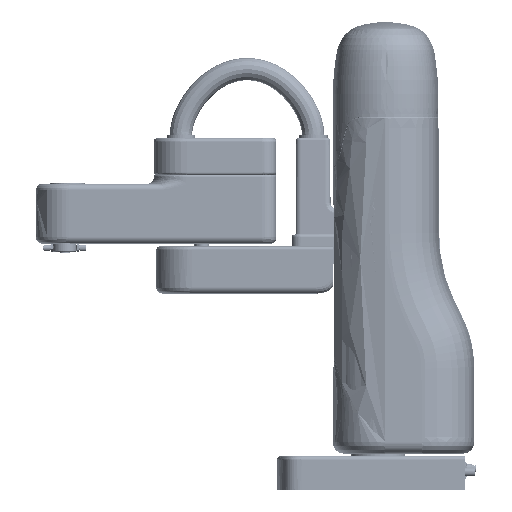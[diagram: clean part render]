
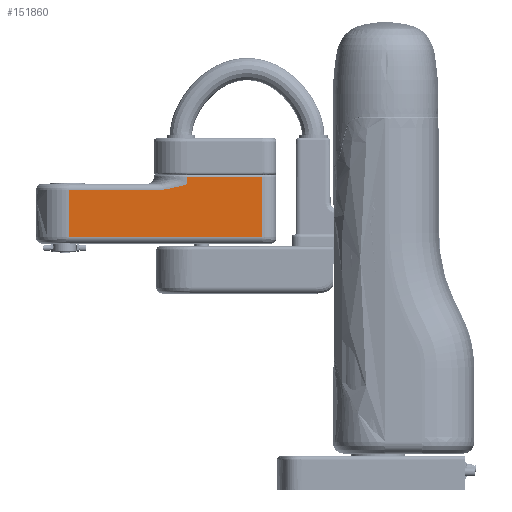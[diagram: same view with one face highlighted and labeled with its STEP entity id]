
A CAD part, front view. The second image highlights one B-rep face of the part: STEP entity #151860.
In plain terms, the highlighted planar face has unit normal (0, -1, 0) as drawn and (0, 0, -1) by its records, which use the part's own axes.
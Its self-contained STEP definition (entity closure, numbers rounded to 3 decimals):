
#3894=B_SPLINE_CURVE_WITH_KNOTS('',3,(#278750,#278751,#278752,#278753),
 .UNSPECIFIED.,.F.,.F.,(4,4),(0.,1.),.UNSPECIFIED.);
#9370=PLANE('',#167655);
#15845=FACE_OUTER_BOUND('',#24677,.T.);
#24677=EDGE_LOOP('',(#120302,#120303,#120304,#120305,#120306,#120307,#120308));
#33928=LINE('',#278748,#44123);
#33929=LINE('',#278755,#44124);
#33930=LINE('',#278757,#44125);
#33931=LINE('',#278759,#44126);
#33932=LINE('',#278761,#44127);
#33933=LINE('',#278762,#44128);
#44123=VECTOR('',#202248,10.);
#44124=VECTOR('',#202249,10.);
#44125=VECTOR('',#202250,10.);
#44126=VECTOR('',#202251,10.);
#44127=VECTOR('',#202252,10.);
#44128=VECTOR('',#202253,10.);
#64983=VERTEX_POINT('',#278746);
#64984=VERTEX_POINT('',#278747);
#64985=VERTEX_POINT('',#278749);
#64986=VERTEX_POINT('',#278754);
#64987=VERTEX_POINT('',#278756);
#64988=VERTEX_POINT('',#278758);
#64989=VERTEX_POINT('',#278760);
#84121=EDGE_CURVE('',#64983,#64984,#33928,.T.);
#84122=EDGE_CURVE('',#64985,#64983,#3894,.T.);
#84123=EDGE_CURVE('',#64986,#64985,#33929,.T.);
#84124=EDGE_CURVE('',#64987,#64986,#33930,.T.);
#84125=EDGE_CURVE('',#64987,#64988,#33931,.T.);
#84126=EDGE_CURVE('',#64988,#64989,#33932,.T.);
#84127=EDGE_CURVE('',#64984,#64989,#33933,.T.);
#120302=ORIENTED_EDGE('',*,*,#84121,.F.);
#120303=ORIENTED_EDGE('',*,*,#84122,.F.);
#120304=ORIENTED_EDGE('',*,*,#84123,.F.);
#120305=ORIENTED_EDGE('',*,*,#84124,.F.);
#120306=ORIENTED_EDGE('',*,*,#84125,.T.);
#120307=ORIENTED_EDGE('',*,*,#84126,.T.);
#120308=ORIENTED_EDGE('',*,*,#84127,.F.);
#151860=ADVANCED_FACE('',(#15845),#9370,.T.);
#167655=AXIS2_PLACEMENT_3D('',#278745,#202246,#202247);
#202246=DIRECTION('center_axis',(0.,0.,-1.));
#202247=DIRECTION('ref_axis',(-1.,0.,0.));
#202248=DIRECTION('',(0.,-1.,0.));
#202249=DIRECTION('',(1.,0.,0.));
#202250=DIRECTION('',(0.,-1.,0.));
#202251=DIRECTION('',(1.,0.,0.));
#202252=DIRECTION('',(0.,-1.,0.));
#202253=DIRECTION('',(1.,0.,0.));
#278745=CARTESIAN_POINT('Origin',(84.395,34.5,-42.));
#278746=CARTESIAN_POINT('',(111.2,-41.633,-42.));
#278747=CARTESIAN_POINT('',(111.2,-50.526,-42.));
#278748=CARTESIAN_POINT('',(111.2,-41.633,-42.));
#278749=CARTESIAN_POINT('',(74.67,-33.703,-42.));
#278750=CARTESIAN_POINT('Ctrl Pts',(74.67,-33.703,-42.));
#278751=CARTESIAN_POINT('Ctrl Pts',(82.204,-33.703,
-42.));
#278752=CARTESIAN_POINT('Ctrl Pts',(109.602,-39.651,
-42.));
#278753=CARTESIAN_POINT('Ctrl Pts',(111.2,-41.633,-42.));
#278754=CARTESIAN_POINT('',(-39.,-33.703,-42.));
#278755=CARTESIAN_POINT('',(-39.,-33.703,-42.));
#278756=CARTESIAN_POINT('',(-39.,26.203,-42.));
#278757=CARTESIAN_POINT('',(-39.,26.203,-42.));
#278758=CARTESIAN_POINT('',(207.79,26.203,-42.));
#278759=CARTESIAN_POINT('',(-39.,26.203,-42.));
#278760=CARTESIAN_POINT('',(207.79,-50.526,-42.));
#278761=CARTESIAN_POINT('',(207.79,26.203,-42.));
#278762=CARTESIAN_POINT('',(111.2,-50.526,-42.));
